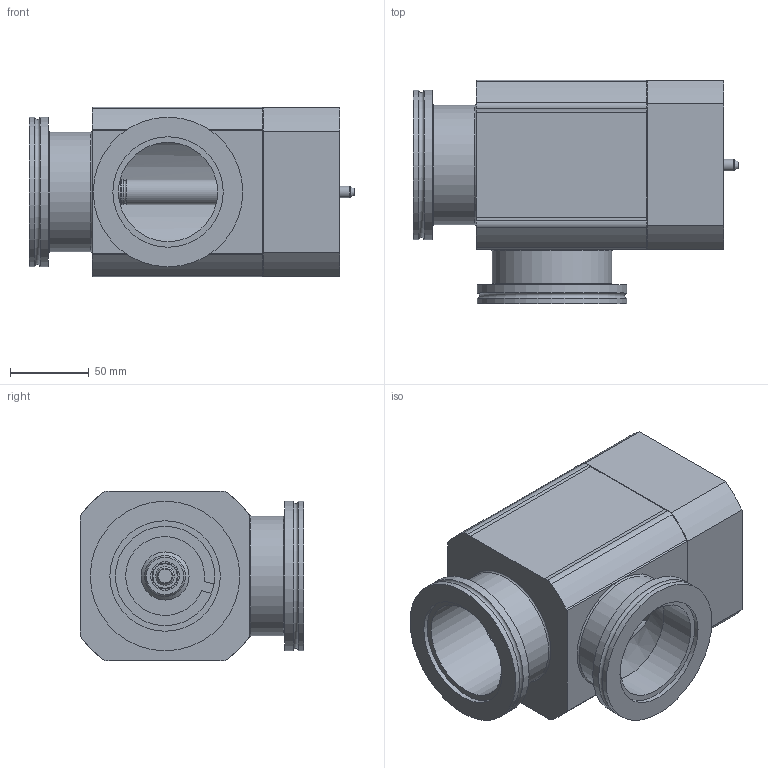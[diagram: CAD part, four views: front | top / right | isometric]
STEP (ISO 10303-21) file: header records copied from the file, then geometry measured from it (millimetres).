
FILE_DESCRIPTION(/* description */ (''),/* implementation_level */ '2;1');
FILE_NAME(/* name */ '1168983050_203.stp',/* time_stamp */ '2012-08-09T12:04:30+02:00',/* author */ (''),/* organization */ (''),/* preprocessor_version */ 'ST-DEVELOPER v11',/* originating_system */ 'SIEMENS PLM Software NX 7.5',/* authorisation */ '');
FILE_SCHEMA (('AP203_CONFIGURATION_CONTROLLED_3D_DESIGN_OF_MECHANICAL_PARTS_AND_ASSEMBLIES_MIM_LF'));
Length unit declared in the file: millimetre
Products named in the file (8): 414761_17912ID; 415266; 243267.7; 259415.2; N-6013-443.2; 224796.1; 459840_MODEL; 470617
Assembly tree (11 placements, depth 3):
  470617
    224796.1  x4
    N-6013-443.2  x2
    259415.2
    243267.7
    415266
    459840_MODEL
      414761_17912ID
Bounding box: 206.4 x 141.8 x 107.6 mm (x, y, z)
Volume: 949964.3 mm3; surface area: 222651.8 mm2
Topology: 18 solids, 18 shells, 313 faces, 697 edges, 450 vertices
Faces by surface type: plane 150, cylinder 109, cone 31, torus 23
Full cylindrical faces by diameter (mm): 3 x2, 3.1 x1, 3.3 x2, 4 x3, 4.16 x4, 4.2 x8, 4.5 x2, 4.6 x1, 4.7 x2, 5 x8, 5.5 x4, 7 x1, 7.4 x1, 7.5 x2, 8.5 x4, 8.566 x1, 9 x1, 10 x4, 10.1 x1, 12 x1, 15.975 x3, 16 x1, 16.5 x2, 18.18 x1, 20.45 x1, 26 x1, 30.5 x1, 63 x2, 70.095 x2, 75.05 x1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
Entity records: 7244 total; most frequent: CARTESIAN_POINT 1183, DIRECTION 1112, ORIENTED_EDGE 804, AXIS2_PLACEMENT_3D 475, EDGE_LOOP 405, EDGE_CURVE 402, FACE_BOUND 327, VERTEX_POINT 327
